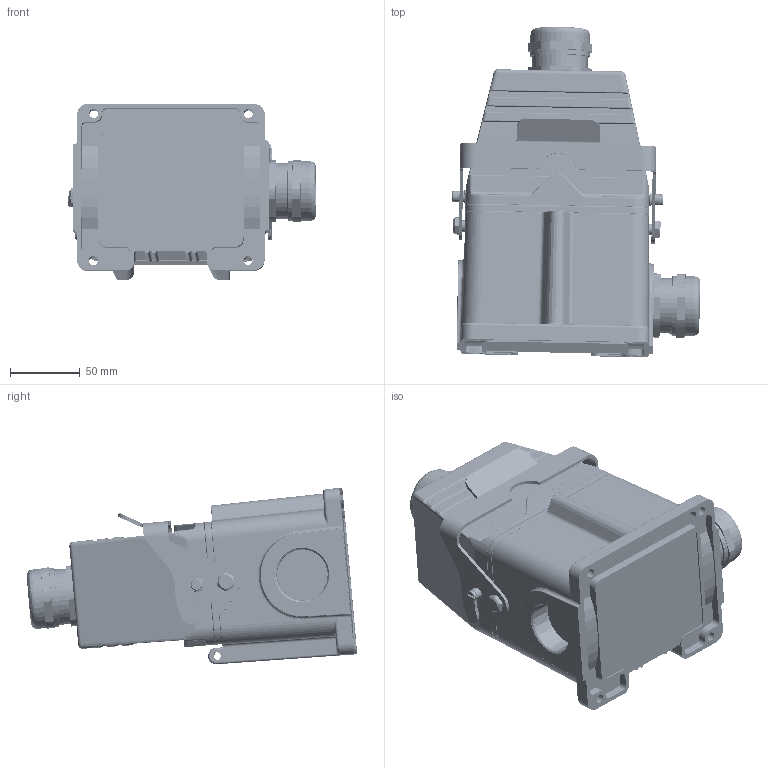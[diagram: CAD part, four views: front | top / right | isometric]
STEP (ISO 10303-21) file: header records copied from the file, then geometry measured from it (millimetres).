
FILE_DESCRIPTION (( 'STEP AP214' ), '1' );
FILE_NAME ('09048104232M HE、48针、表面底座、顶出M32套件、配金属接头.STEP', '2024-05-06T09:20:49', ( 'L' ), ( '' ), 'SwSTEP 2.0', 'SolidWorks 2019', '' );
FILE_SCHEMA (( 'AUTOMOTIVE_DESIGN' ));
Length unit declared in the file: millimetre
Products named in the file (8): H48B-TG-M32.step; HE-024-M.stp; HE-024-F.stp; HE-024-MD（25-48）.step; HE-024-FD（25-48）.step; 09048104232M HE、48针、表面底座、顶出M32套件、配金属接头; H48B-SGR-M32.step; FAS-32-M.step
Assembly tree (8 placements, depth 2):
  09048104232M HE、48针、表面底座、顶出M32套件、配金属接头
    HE-024-M.stp
    HE-024-MD（25-48）.step
    HE-024-F.stp
    HE-024-FD（25-48）.step
    H48B-TG-M32.step
    FAS-32-M.step  x2
    H48B-SGR-M32.step
Bounding box: 178.26 x 237.07 x 126.64 mm (x, y, z)
Volume: 940352.8 mm3; surface area: 409916.7 mm2
Topology: 8 solids, 8 shells, 13806 faces, 37135 edges, 23426 vertices
Faces by surface type: plane 6527, bspline 3241, cylinder 2779, cone 917, torus 218, sphere 124
Entity records: 629817 total; most frequent: CARTESIAN_POINT 256381, ORIENTED_EDGE 73414, DIRECTION 55929, EDGE_CURVE 36707, VERTEX_POINT 23288, LINE 20697, VECTOR 20697, AXIS2_PLACEMENT_3D 17616
